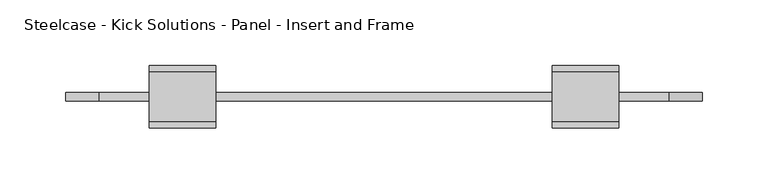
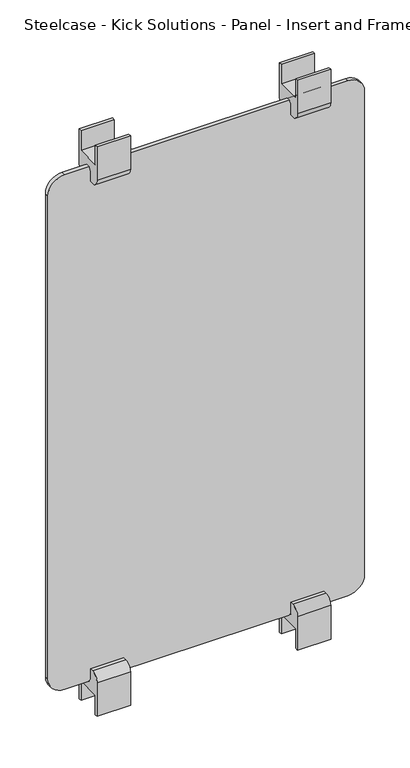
"""IFC4 building model written with IfcOpenShell, lengths in millimetres: furniture geometry, Steelcase - Kick Solutions - Panel - Insert and Frame : Laminate - 42H x 24W."""

from ifc_helpers import new_model, si_unit, point, frame, frame_2d, origin, place, context, project, spatial, polyline, circle_curve, trimmed, segment, composite_curve, outline, extrude, source, transform, mapped, element, save


def steelcase_kick_solutions_panel_insert_and_frame_87f2ef6e(model_context):
    return source(origin(), model_context, "Body", "SweptSolid", [
        extrude(outline(composite_curve([segment(polyline([(5.3821989, 1041.4), (10.144699, 1041.4), (10.144699, 986.713221)]), True, "CONTINUOUS"), segment(trimmed(circle_curve(frame_2d((-1.6831687, 986.713221)), 11.8278677), [point((10.144699, 986.713221))], [point((-1.6831687, 974.8853533))], False, "CARTESIAN"), True, "CONTINUOUS"), segment(polyline([(-1.6831687, 974.8853533), (-7.3178012, 974.8853533), (-7.3178012, 990.2857521)]), True, "CONTINUOUS"), segment(trimmed(circle_curve(frame_2d((-13.667801, 990.2857521)), 6.3499998), [point((-7.3178012, 990.2857521))], [point((-20.0178007, 990.2857521))], True, "CARTESIAN"), True, "CONTINUOUS"), segment(polyline([(-20.0178007, 990.2857521), (-20.0178007, 974.8853527), (-25.2074988, 974.8853527)]), True, "CONTINUOUS"), segment(trimmed(circle_curve(frame_2d((-25.2074988, 987.1581549)), 12.2728022), [point((-25.2074988, 974.8853527))], [point((-37.480301, 987.1581549))], False, "CARTESIAN"), True, "CONTINUOUS"), segment(polyline([(-37.480301, 987.1581549), (-37.480301, 1041.4), (-32.7177988, 1041.4), (-32.7177988, 1009.6499758), (5.3821989, 1009.6499758), (5.3821989, 1041.4)]), True, "CONTINUOUS")], self_intersect=False)), frame((432.7148583, 0.0, 0.0), z_axis=(1.0, 0.0, 0.0), x_axis=(0.0, 1.0, 0.0)), (0.0, 0.0, 1.0), 50.8),
        extrude(outline(composite_curve([segment(polyline([(5.3821989, 120.6499576), (5.3821989, 152.3999815), (-32.7177988, 152.3999815), (-32.7177988, 120.6499576), (-37.480301, 120.6499576), (-37.480301, 174.8918024)]), True, "CONTINUOUS"), segment(trimmed(circle_curve(frame_2d((-25.2074988, 174.8918024)), 12.2728022), [point((-37.480301, 174.8918024))], [point((-25.2074988, 187.1646046))], False, "CARTESIAN"), True, "CONTINUOUS"), segment(polyline([(-25.2074988, 187.1646046), (-20.0178007, 187.1646046), (-20.0178007, 171.7642058)]), True, "CONTINUOUS"), segment(trimmed(circle_curve(frame_2d((-13.667801, 171.7642058)), 6.3499998), [point((-20.0178007, 171.7642058))], [point((-7.3178012, 171.7642058))], True, "CARTESIAN"), True, "CONTINUOUS"), segment(polyline([(-7.3178012, 171.7642058), (-7.3178012, 187.1646046), (-1.6831687, 187.1646046)]), True, "CONTINUOUS"), segment(trimmed(circle_curve(frame_2d((-1.6831687, 175.3367369)), 11.8278677), [point((-1.6831687, 187.1646046))], [point((10.144699, 175.3367369))], False, "CARTESIAN"), True, "CONTINUOUS"), segment(polyline([(10.144699, 175.3367369), (10.144699, 120.6499576), (5.3821989, 120.6499576)]), True, "CONTINUOUS")], self_intersect=False)), frame((432.7148583, 0.0, 0.0), z_axis=(1.0, 0.0, 0.0), x_axis=(0.0, 1.0, 0.0)), (0.0, 0.0, 1.0), 50.8),
        extrude(outline(composite_curve([segment(polyline([(5.3821989, 1041.4), (10.144699, 1041.4), (10.144699, 986.7132204)]), True, "CONTINUOUS"), segment(trimmed(circle_curve(frame_2d((-1.6831684, 986.7132204)), 11.8278674), [point((10.144699, 986.7132204))], [point((-1.6831684, 974.885353))], False, "CARTESIAN"), True, "CONTINUOUS"), segment(polyline([(-1.6831684, 974.885353), (-7.3178009, 974.885353), (-7.3178009, 990.2857521)]), True, "CONTINUOUS"), segment(trimmed(circle_curve(frame_2d((-13.667801, 990.2857521)), 6.3500001), [point((-7.3178009, 990.2857521))], [point((-20.017801, 990.2857521))], True, "CARTESIAN"), True, "CONTINUOUS"), segment(polyline([(-20.017801, 990.2857521), (-20.017801, 974.885353), (-25.2074991, 974.885353)]), True, "CONTINUOUS"), segment(trimmed(circle_curve(frame_2d((-25.2074991, 987.1581549)), 12.2728019), [point((-25.2074991, 974.885353))], [point((-37.480301, 987.1581549))], False, "CARTESIAN"), True, "CONTINUOUS"), segment(polyline([(-37.480301, 987.1581549), (-37.480301, 1041.4), (-32.7177988, 1041.4), (-32.7177988, 1009.6499758), (5.3821989, 1009.6499758), (5.3821989, 1041.4)]), True, "CONTINUOUS")], self_intersect=False)), frame((126.0851417, 0.0, 0.0), z_axis=(1.0, 0.0, 0.0), x_axis=(0.0, 1.0, 0.0)), (0.0, 0.0, 1.0), 50.8),
        extrude(outline(composite_curve([segment(polyline([(5.3821989, 120.6499576), (5.3821989, 152.3999818), (-32.7177988, 152.3999818), (-32.7177988, 120.6499576), (-37.480301, 120.6499576), (-37.480301, 174.8918027)]), True, "CONTINUOUS"), segment(trimmed(circle_curve(frame_2d((-25.2074991, 174.8918027)), 12.2728019), [point((-37.480301, 174.8918027))], [point((-25.2074991, 187.1646046))], False, "CARTESIAN"), True, "CONTINUOUS"), segment(polyline([(-25.2074991, 187.1646046), (-20.017801, 187.1646046), (-20.017801, 171.7642055)]), True, "CONTINUOUS"), segment(trimmed(circle_curve(frame_2d((-13.667801, 171.7642055)), 6.3500001), [point((-20.017801, 171.7642055))], [point((-7.3178009, 171.7642055))], True, "CARTESIAN"), True, "CONTINUOUS"), segment(polyline([(-7.3178009, 171.7642055), (-7.3178009, 187.1646041), (-1.6831684, 187.1646041)]), True, "CONTINUOUS"), segment(trimmed(circle_curve(frame_2d((-1.6831684, 175.3367366)), 11.8278674), [point((-1.6831684, 187.1646041))], [point((10.144699, 175.3367366))], False, "CARTESIAN"), True, "CONTINUOUS"), segment(polyline([(10.144699, 175.3367366), (10.144699, 120.6499576), (5.3821989, 120.6499576)]), True, "CONTINUOUS")], self_intersect=False)), frame((126.0851417, 0.0, 0.0), z_axis=(1.0, 0.0, 0.0), x_axis=(0.0, 1.0, 0.0)), (0.0, 0.0, 1.0), 50.8),
        extrude(outline(composite_curve([segment(polyline([(996.9499516, 521.6148583), (996.9499516, 87.9851417)]), True, "CONTINUOUS"), segment(trimmed(circle_curve(frame_2d((971.5499516, 87.9851417)), 25.4), [point((996.9499516, 87.9851417))], [point((971.5499516, 62.5851417))], False, "CARTESIAN"), True, "CONTINUOUS"), segment(polyline([(971.5499516, 62.5851417), (190.5000061, 62.5851417)]), True, "CONTINUOUS"), segment(trimmed(circle_curve(frame_2d((190.5000061, 87.9851417)), 25.4), [point((190.5000061, 62.5851417))], [point((165.1000061, 87.9851417))], False, "CARTESIAN"), True, "CONTINUOUS"), segment(polyline([(165.1000061, 87.9851417), (165.1000061, 521.6148583)]), True, "CONTINUOUS"), segment(trimmed(circle_curve(frame_2d((190.5000061, 521.6148583)), 25.4), [point((165.1000061, 521.6148583))], [point((190.5000061, 547.0148583))], False, "CARTESIAN"), True, "CONTINUOUS"), segment(polyline([(190.5000061, 547.0148583), (971.5499516, 547.0148583)]), True, "CONTINUOUS"), segment(trimmed(circle_curve(frame_2d((971.5499516, 521.6148583)), 25.4), [point((971.5499516, 547.0148583))], [point((996.9499516, 521.6148583))], False, "CARTESIAN"), True, "CONTINUOUS")], self_intersect=False)), frame((0.0, -16.8428004, 0.0), z_axis=(0.0, 1.0, 0.0), x_axis=(0.0, 0.0, 1.0)), (0.0, 0.0, 1.0), 6.3499985),
    ])


if __name__ == "__main__":
    model = new_model("IFC4")
    model_context = context("Model", 3, world=origin())
    ifc_project = project(units=[si_unit("LENGTHUNIT", "METRE", prefix="MILLI")], contexts=[model_context])
    site = spatial("IfcSite", under=ifc_project)
    building = spatial("IfcBuilding", under=site)
    placement = place(None, origin())
    steelcase_kick_solutions_panel_insert_and_frame_shape = steelcase_kick_solutions_panel_insert_and_frame_87f2ef6e(model_context)
    element("IfcFurniture", 1, ObjectType="Steelcase - Kick Solutions - Panel - Insert and Frame : Laminate - 42H x 24W", at=placement, inside=building, context=model_context, shape_type="MappedRepresentation", body=[
        mapped(steelcase_kick_solutions_panel_insert_and_frame_shape, transform((0.0, 0.0, 0.0), x_axis=(1.0, 0.0, 0.0), y_axis=(0.0, 1.0, 0.0), z_axis=(0.0, 0.0, 1.0))),
    ])
    save(model, "model.ifc")
